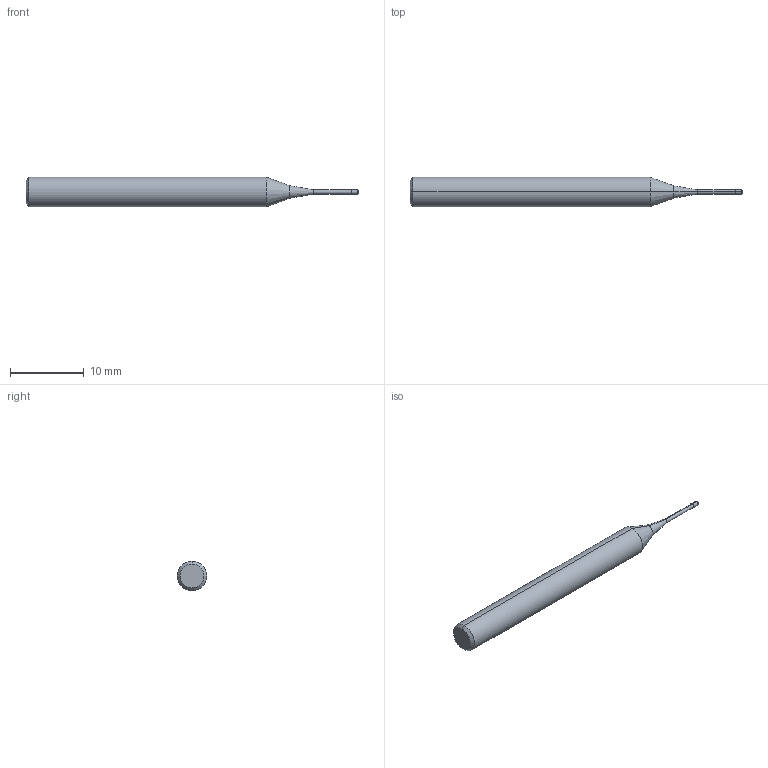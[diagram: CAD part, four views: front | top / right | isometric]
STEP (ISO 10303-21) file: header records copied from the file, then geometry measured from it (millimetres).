
FILE_DESCRIPTION (( 'STEP AP214' ), '1' );
FILE_NAME ('SEME6100600506E.STEP', '2018-04-09T08:45:44', ( '' ), ( '' ), 'SwSTEP 2.0', 'SolidWorks 2014', '' );
FILE_SCHEMA (( 'AUTOMOTIVE_DESIGN' ));
Length unit declared in the file: millimetre
Products named in the file (1): SEME6100600506E
Bounding box: 45 x 4 x 4 mm (x, y, z)
Volume: 434.8 mm3; surface area: 472 mm2
Topology: 2 solids, 2 shells, 18 faces, 32 edges, 18 vertices
Faces by surface type: cylinder 6, cone 6, plane 4, torus 2
Entity records: 479 total; most frequent: DIRECTION 90, CARTESIAN_POINT 69, ORIENTED_EDGE 64, AXIS2_PLACEMENT_3D 39, EDGE_CURVE 32, CIRCLE 20, EDGE_LOOP 18, VERTEX_POINT 18
